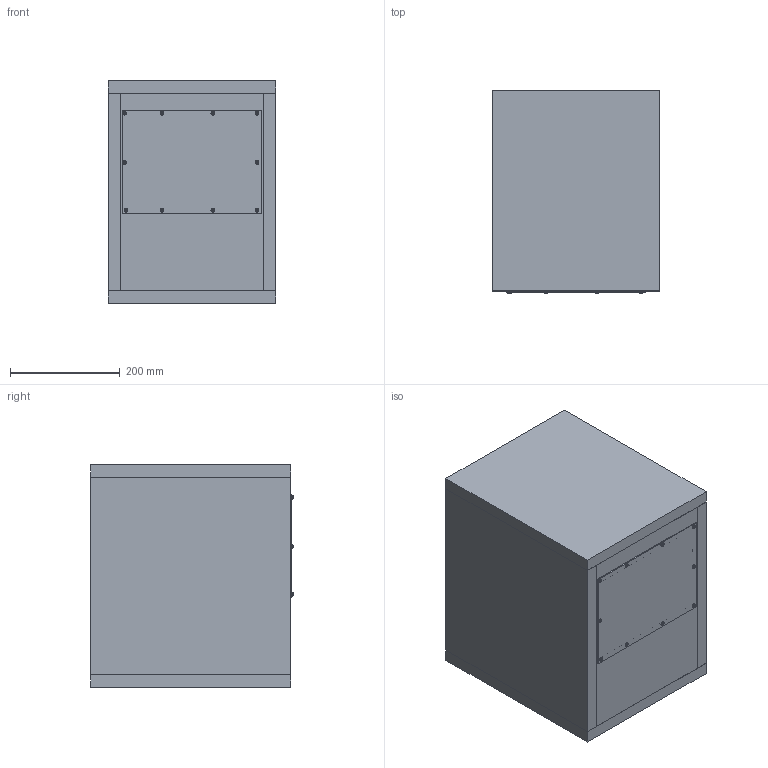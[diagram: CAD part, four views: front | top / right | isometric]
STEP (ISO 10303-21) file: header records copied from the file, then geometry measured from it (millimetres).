
FILE_DESCRIPTION((''),'2;1');
FILE_NAME('REPRAK_ASM','2021-04-17T22:17:53',('vonyh'),(''),'CREO PARAMETRIC BY PTC INC, 2018420','CREO PARAMETRIC BY PTC INC, 2018420','');
FILE_SCHEMA(('CONFIG_CONTROL_DESIGN'));
Length unit declared in the file: millimetre
Products named in the file (12): PREDEK; STRANA; SPODEK-VRSEK; ZADEK; MACIK; PREDEK_KRYT; BASSREFLEX; ZESIK; SROUB_M5X25; SAMOREZNA_MATICE_M5; VRUT_D3_5X16; REPRAK_ASM
Assembly tree (36 placements, depth 2):
  REPRAK_ASM
    PREDEK
    STRANA  x2
    SPODEK-VRSEK  x2
    ZADEK
    MACIK
    PREDEK_KRYT
    BASSREFLEX
    ZESIK
    SROUB_M5X25  x8
    SAMOREZNA_MATICE_M5  x8
    VRUT_D3_5X16  x10
Bounding box: 306 x 369.41 x 406 mm (x, y, z)
Volume: 20533591.9 mm3; surface area: 2111788.1 mm2
Topology: 36 solids, 52 shells, 1121 faces, 2819 edges, 1775 vertices
Faces by surface type: cylinder 374, plane 347, cone 192, bspline 162, torus 26, sphere 20
Entity records: 9949 total; most frequent: CARTESIAN_POINT 3670, DIRECTION 1293, ORIENTED_EDGE 1188, EDGE_CURVE 598, AXIS2_PLACEMENT_3D 514, VERTEX_POINT 383, EDGE_LOOP 311, VECTOR 265
